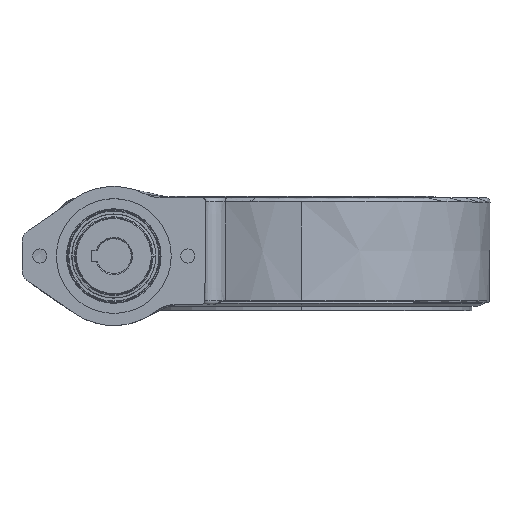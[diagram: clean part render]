
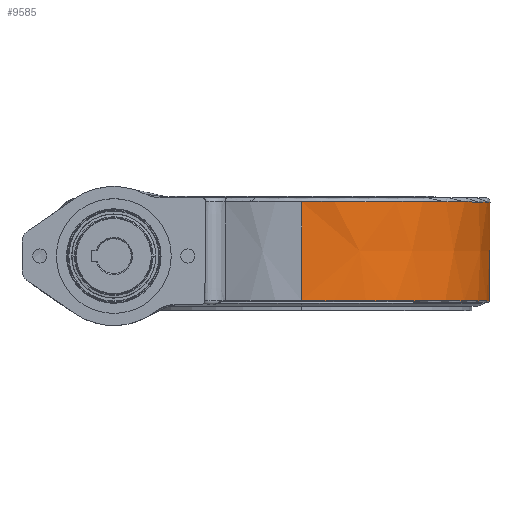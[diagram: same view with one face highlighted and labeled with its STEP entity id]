
A CAD part, top view. The second image highlights one B-rep face of the part: STEP entity #9585.
In plain terms, the highlighted conical face has half-angle 0.4 degrees and reference radius 135.5 mm.
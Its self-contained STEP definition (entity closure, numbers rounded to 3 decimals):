
#9585 = ADVANCED_FACE ( 'NONE', ( #25064 ), #24095, .T. ) ;
#9905 = EDGE_CURVE ( 'NONE', #35172, #35200, #28700, .T. ) ;
#9906 = EDGE_CURVE ( 'NONE', #35202, #35200, #26785, .T. ) ;
#9907 = EDGE_CURVE ( 'NONE', #35171, #35201, #28712, .T. ) ;
#9908 = EDGE_CURVE ( 'NONE', #35172, #35171, #26788, .T. ) ;
#9915 = EDGE_CURVE ( 'NONE', #35201, #35202, #26797, .T. ) ;
#24095 = CONICAL_SURFACE ( 'NONE', #24096, 135.5, 0.007 ) ;
#24096 = AXIS2_PLACEMENT_3D ( 'NONE', #25063, #25065, #25075 ) ;
#25063 = CARTESIAN_POINT ( 'NONE',  ( 0., 42., 0. ) ) ;
#25064 = FACE_OUTER_BOUND ( 'NONE', #32880, .T. ) ;
#25065 = DIRECTION ( 'NONE',  ( 0., 1., 0. ) ) ;
#25075 = DIRECTION ( 'NONE',  ( 0., 0., 1. ) ) ;
#26778 = VECTOR ( 'NONE', #28716, 1000. ) ;
#26783 = VECTOR ( 'NONE', #28709, 1000. ) ;
#26785 = CIRCLE ( 'NONE', #26787, 135.479 ) ;
#26787 = AXIS2_PLACEMENT_3D ( 'NONE', #28713, #28714, #28715 ) ;
#26788 = CIRCLE ( 'NONE', #26790, 134.983 ) ;
#26790 = AXIS2_PLACEMENT_3D ( 'NONE', #28717, #28718, #28719 ) ;
#26797 = CIRCLE ( 'NONE', #26802, 135.479 ) ;
#26802 = AXIS2_PLACEMENT_3D ( 'NONE', #28737, #28738, #28739 ) ;
#28700 = LINE ( 'NONE', #28701, #26783 ) ;
#28701 = CARTESIAN_POINT ( 'NONE',  ( 0., 42., 135.5 ) ) ;
#28705 = CARTESIAN_POINT ( 'NONE',  ( 0., 42., -135.5 ) ) ;
#28709 = DIRECTION ( 'NONE',  ( 0., 1., 0.007 ) ) ;
#28712 = LINE ( 'NONE', #28705, #26778 ) ;
#28713 = CARTESIAN_POINT ( 'NONE',  ( 0., 38.979, 0. ) ) ;
#28714 = DIRECTION ( 'NONE',  ( 0., -1., 0. ) ) ;
#28715 = DIRECTION ( 'NONE',  ( -1., 0., 0. ) ) ;
#28716 = DIRECTION ( 'NONE',  ( 0., 1., -0.007 ) ) ;
#28717 = CARTESIAN_POINT ( 'NONE',  ( 0., -32.021, 0. ) ) ;
#28718 = DIRECTION ( 'NONE',  ( 0., 1., 0. ) ) ;
#28719 = DIRECTION ( 'NONE',  ( -1., 0., 0. ) ) ;
#28737 = CARTESIAN_POINT ( 'NONE',  ( 0., 38.979, 0. ) ) ;
#28738 = DIRECTION ( 'NONE',  ( 0., -1., 0. ) ) ;
#28739 = DIRECTION ( 'NONE',  ( -1., 0., 0. ) ) ;
#30651 = CARTESIAN_POINT ( 'NONE',  ( 0., -32.021, -134.983 ) ) ;
#30652 = CARTESIAN_POINT ( 'NONE',  ( 0., -32.021, 134.983 ) ) ;
#30680 = CARTESIAN_POINT ( 'NONE',  ( 0., 38.979, 135.479 ) ) ;
#30681 = CARTESIAN_POINT ( 'NONE',  ( 0., 38.979, -135.479 ) ) ;
#30682 = CARTESIAN_POINT ( 'NONE',  ( 135.479, 38.979, 0. ) ) ;
#32210 = ORIENTED_EDGE ( 'NONE', *, *, #9908, .T. ) ;
#32211 = ORIENTED_EDGE ( 'NONE', *, *, #9907, .T. ) ;
#32212 = ORIENTED_EDGE ( 'NONE', *, *, #9915, .T. ) ;
#32213 = ORIENTED_EDGE ( 'NONE', *, *, #9906, .T. ) ;
#32214 = ORIENTED_EDGE ( 'NONE', *, *, #9905, .F. ) ;
#32880 = EDGE_LOOP ( 'NONE', ( #32210, #32211, #32212, #32213, #32214 ) ) ;
#35171 = VERTEX_POINT ( 'NONE', #30651 ) ;
#35172 = VERTEX_POINT ( 'NONE', #30652 ) ;
#35200 = VERTEX_POINT ( 'NONE', #30680 ) ;
#35201 = VERTEX_POINT ( 'NONE', #30681 ) ;
#35202 = VERTEX_POINT ( 'NONE', #30682 ) ;
